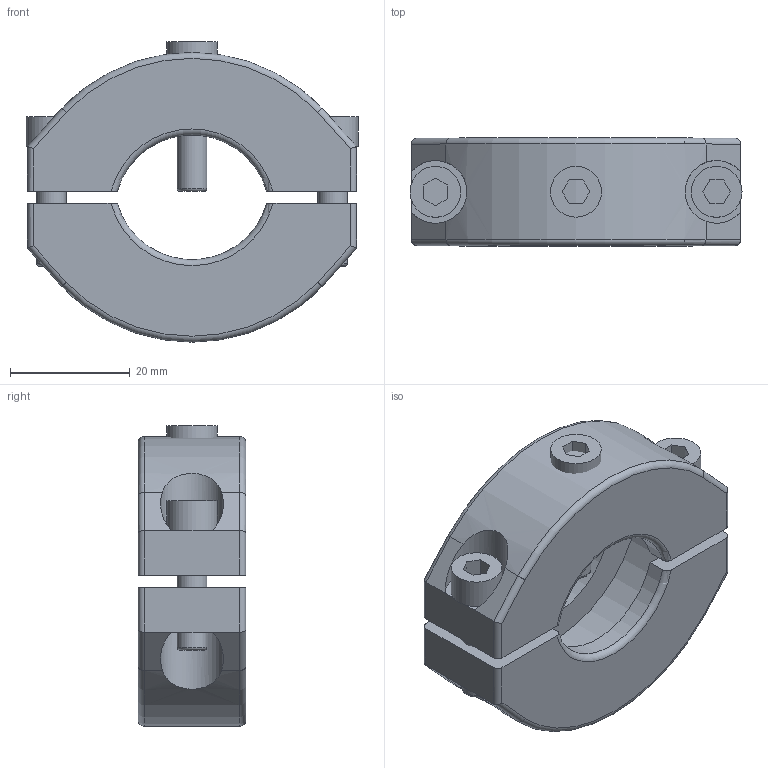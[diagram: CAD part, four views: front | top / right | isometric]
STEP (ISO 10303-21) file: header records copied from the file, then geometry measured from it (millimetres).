
FILE_DESCRIPTION( ( 'Unknown' ), '1' );
FILE_NAME( 'X:/Daten ( aktueller Bestand )/Projekte und Zeichnungen/Solid Edge/5 Spannringe/VA/Spannring FL Massiv/1341.stp', 'Unknown', ( 'Unknown' ), ( 'Unknown' ), 'XStep 1.0', 'Unknown', ' ' );
FILE_SCHEMA( ( 'automotive_design' ) );
Length unit declared in the file: millimetre
Products named in the file (3): Assem1; 1341-1; 1341-2
Bounding box: 55.5 x 18 x 50.22 mm (x, y, z)
Volume: 36753.2 mm3; surface area: 16956.5 mm2
Topology: 6 solids, 6 shells, 141 faces, 336 edges, 213 vertices
Faces by surface type: plane 72, cylinder 54, torus 15
Full cylindrical faces by diameter (mm): 4.134 x6, 5 x3, 8.5 x3
Entity records: 1588 total; most frequent: CARTESIAN_POINT 348, DIRECTION 234, ORIENTED_EDGE 210, EDGE_CURVE 105, AXIS2_PLACEMENT_3D 87, VERTEX_POINT 69, LINE 60, VECTOR 60
